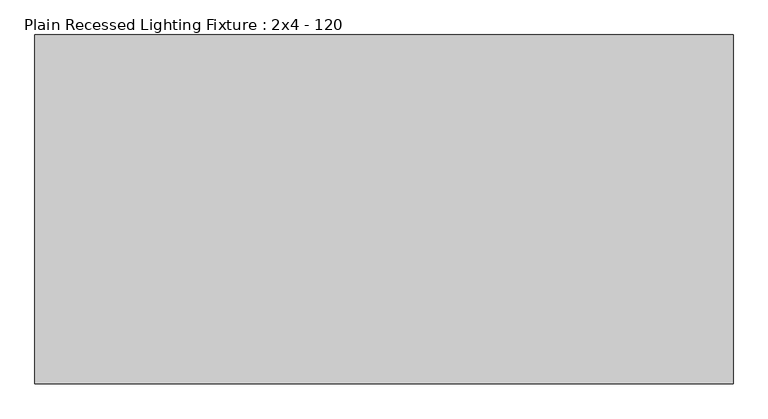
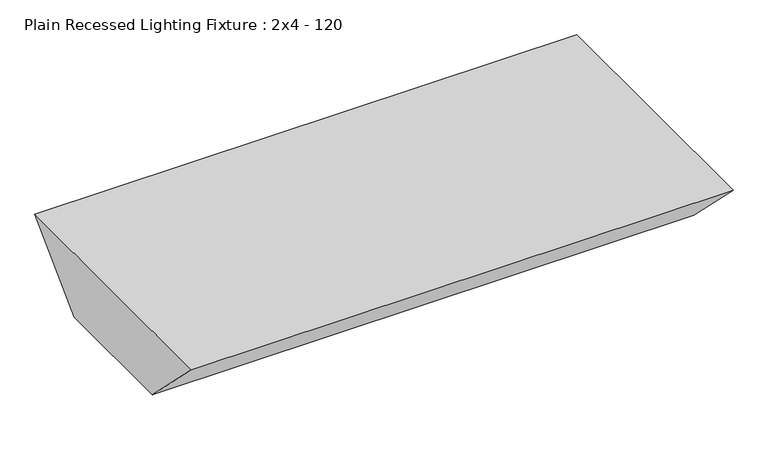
"""IFC4 building model written with IfcOpenShell, lengths in millimetres: light fixture geometry, Plain Recessed Lighting Fixture : 2x4 - 120."""

from ifc_helpers import new_model, si_unit, frame, origin, place, context, project, spatial, polyline, outline, extrude, source, transform, mapped, element, save


def plain_recessed_lighting_fixture_2x4_120_d3d5fc87(model_context):
    return source(origin(), model_context, "Body", "SweptSolid", [
        extrude(outline(polyline([(-609.6, 0.0), (0.0, 0.0), (-152.4, -152.4), (-457.2, -152.4), (-609.6, 0.0)])), frame((0.0, 0.0, 0.0), z_axis=(1.0, 0.0, 0.0), x_axis=(0.0, 1.0, 0.0)), (0.0, 0.0, 1.0), 1219.2),
    ])


if __name__ == "__main__":
    model = new_model("IFC4")
    model_context = context("Model", 3, world=origin())
    ifc_project = project(units=[si_unit("LENGTHUNIT", "METRE", prefix="MILLI")], contexts=[model_context])
    site = spatial("IfcSite", under=ifc_project)
    building = spatial("IfcBuilding", under=site)
    placement = place(None, origin())
    plain_recessed_lighting_fixture_2x4_120_shape = plain_recessed_lighting_fixture_2x4_120_d3d5fc87(model_context)
    element("IfcLightFixture", 1, ObjectType="Plain Recessed Lighting Fixture : 2x4 - 120", at=placement, inside=building, context=model_context, shape_type="MappedRepresentation", body=[
        mapped(plain_recessed_lighting_fixture_2x4_120_shape, transform((0.0, 0.0, 0.0), x_axis=(1.0, 0.0, 0.0), y_axis=(0.0, 1.0, 0.0), z_axis=(0.0, 0.0, 1.0))),
    ])
    save(model, "model.ifc")
